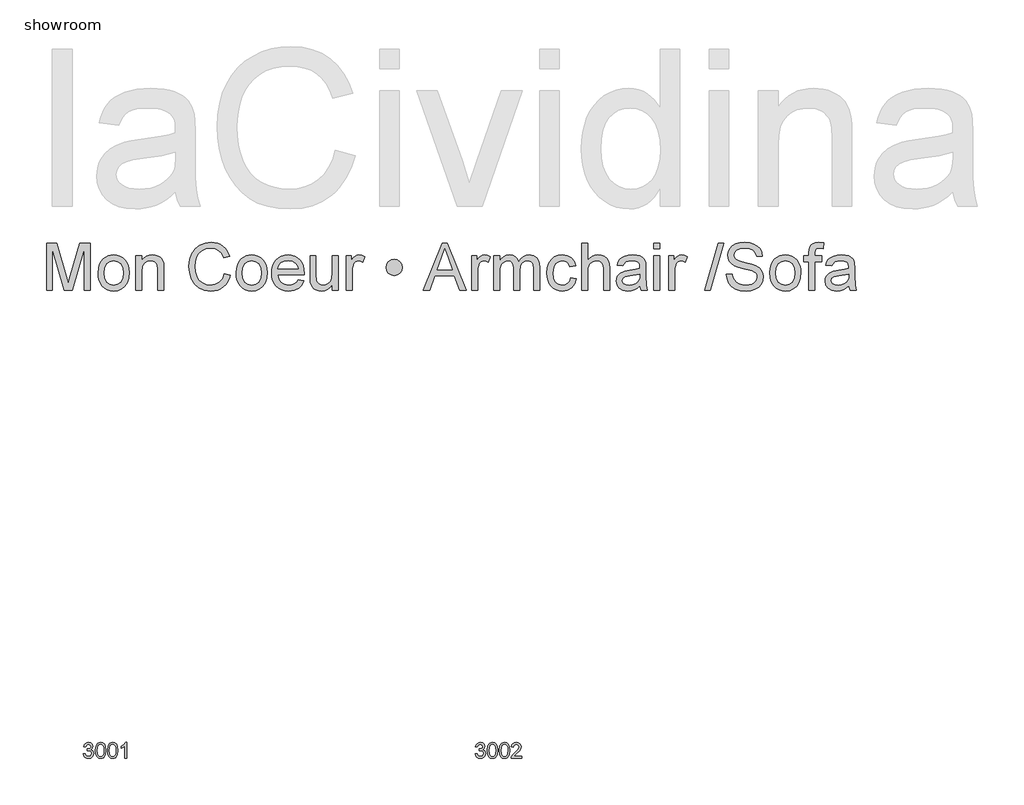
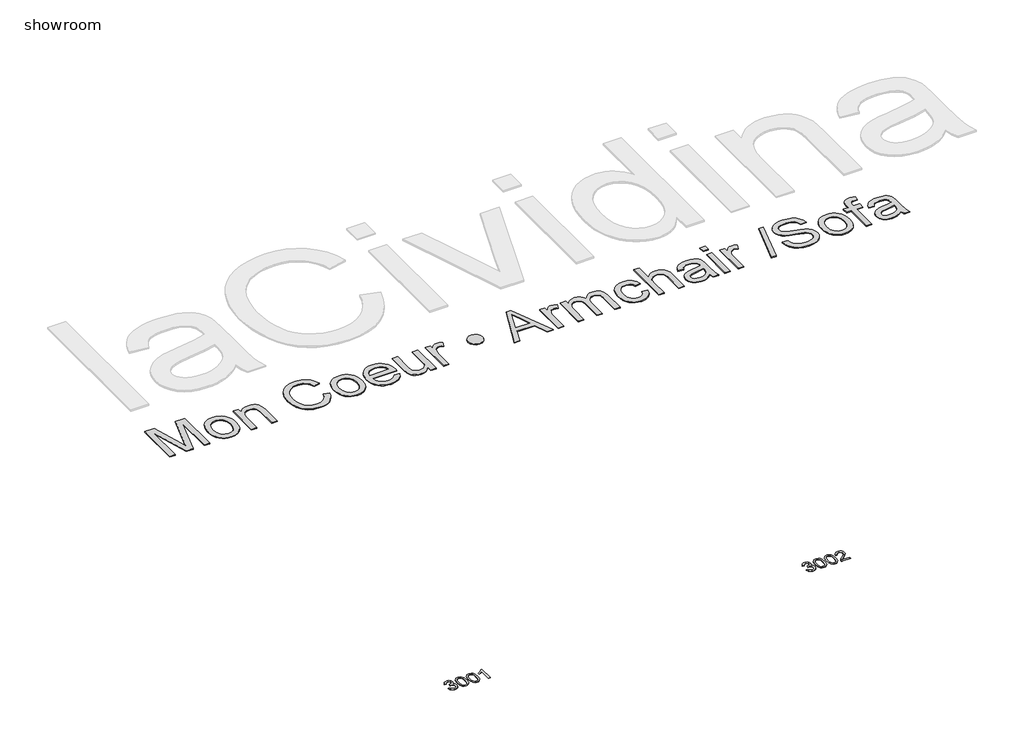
# One storey, part 1 of 2: 3 proxies.
"""IFC4 building model written with IfcOpenShell, lengths in millimetres."""

from ifc_helpers import new_model, si_unit, origin, origin_with_axes, place, context, project, spatial, polyline, outline, extrude, element, save

model = new_model("IFC4")

# Units and contexts
model_context = context("Model", 3, world=origin())
ifc_project = project(units=[si_unit("LENGTHUNIT", "METRE", prefix="MILLI")], contexts=[model_context])

# Site, building, storey
site = spatial("IfcSite", under=ifc_project)
building = spatial("IfcBuilding", under=site)
storey = spatial("IfcBuildingStorey", under=building, Name="showroom", Elevation=0.0)

# Proxies
placement = place(None, origin())
element("IfcBuildingElementProxy", 1, Name="100mm Arial", ObjectType="100mm Arial", at=placement, inside=storey, context=model_context, shape_type="SweptSolid", body=[
    extrude(outline(polyline([(-1755.1998563, 1201.7857881), (-1742.6428175, 1203.3554179), (-1735.7143732, 1190.1361915), (-1722.7526643, 1186.0894896), (-1714.1442256, 1187.4813098), (-1707.4978242, 1191.6567705), (-1701.8324415, 1205.4400825), (-1707.4487733, 1218.426317), (-1721.7225947, 1223.5644022), (-1730.5272371, 1222.1909761), (-1729.1292855, 1234.7480148), (-1727.1181973, 1234.600862), (-1712.8689013, 1238.2061056), (-1708.1232236, 1242.7801051), (-1706.541331, 1249.2916164), (-1711.1275932, 1259.1140656), (-1722.948868, 1263.0013521), (-1734.9172956, 1259.0772774), (-1741.0731876, 1247.3050536), (-1753.6302264, 1248.8746834), (-1749.9330124, 1260.1502666), (-1743.354056, 1268.5686329), (-1734.3532099, 1273.8109513), (-1723.3903264, 1275.5583908), (-1708.2458509, 1272.1125628), (-1697.6508495, 1262.6947837), (-1693.9842923, 1250.0273804), (-1697.4669085, 1238.4513602), (-1707.7676043, 1230.1372272), (-1694.0823941, 1221.5533139), (-1689.2754027, 1205.2193533), (-1691.6788984, 1192.9811456), (-1698.8893855, 1182.7540262), (-1709.7725612, 1175.8378447), (-1723.1941227, 1173.5324508), (-1735.3342285, 1175.5006195), (-1745.2179915, 1181.4051255), (-1752.0912534, 1190.4366285), (-1755.1998563, 1201.7857881)])), origin_with_axes(), (0.0, 0.0, 1.0), 2.0),
    extrude(outline(polyline([(-1678.2879938, 1224.5208954), (-1674.5969111, 1253.4241574), (-1663.6340277, 1270.0892118), (-1645.325767, 1275.5583908), (-1630.6595382, 1272.3210293), (-1620.5305206, 1262.9890893), (-1614.6444086, 1248.1266567), (-1612.3635403, 1224.5208954), (-1616.0178347, 1195.7402606), (-1626.94393, 1179.038418), (-1635.1752896, 1174.9089426), (-1645.325767, 1173.5324508), (-1658.3733151, 1175.9236838), (-1668.2816035, 1183.0973827), (-1675.7863962, 1200.0873995), (-1678.2879938, 1224.5208954)]), holes=[polyline([(-1665.730955, 1224.5454208), (-1664.259427, 1204.7932234), (-1659.8448431, 1193.3612904), (-1653.2720181, 1187.9074398), (-1645.325767, 1186.0894896), (-1637.3795159, 1187.9135712), (-1630.806691, 1193.3858158), (-1626.392107, 1204.8238802), (-1624.920579, 1224.5454208), (-1626.3430561, 1243.8530942), (-1630.6104872, 1255.373932), (-1637.1710495, 1261.094497), (-1645.4729198, 1263.0013521), (-1653.3333318, 1261.3213576), (-1659.6486394, 1256.2813743), (-1664.2103761, 1244.0431666), (-1665.730955, 1224.5454208)])]), origin_with_axes(), (0.0, 0.0, 1.0), 2.0),
    extrude(outline(polyline([(-1601.3761313, 1224.5208954), (-1597.6850487, 1253.4241574), (-1586.7221652, 1270.0892118), (-1568.4139046, 1275.5583908), (-1553.7476757, 1272.3210293), (-1543.6186581, 1262.9890893), (-1537.7325462, 1248.1266567), (-1535.4516778, 1224.5208954), (-1539.1059723, 1195.7402606), (-1550.0320675, 1179.038418), (-1558.2634272, 1174.9089426), (-1568.4139046, 1173.5324508), (-1581.4614527, 1175.9236838), (-1591.3697411, 1183.0973827), (-1598.8745338, 1200.0873995), (-1601.3761313, 1224.5208954)]), holes=[polyline([(-1588.8190926, 1224.5454208), (-1587.3475646, 1204.7932234), (-1582.9329806, 1193.3612904), (-1576.3601557, 1187.9074398), (-1568.4139046, 1186.0894896), (-1560.4676535, 1187.9135712), (-1553.8948285, 1193.3858158), (-1549.4802446, 1204.8238802), (-1548.0087166, 1224.5454208), (-1549.4311936, 1243.8530942), (-1553.6986248, 1255.373932), (-1560.259187, 1261.094497), (-1568.5610574, 1263.0013521), (-1576.4214693, 1261.3213576), (-1582.7367769, 1256.2813743), (-1587.2985137, 1244.0431666), (-1588.8190926, 1224.5454208)])]), origin_with_axes(), (0.0, 0.0, 1.0), 2.0),
    extrude(outline(polyline([(-1477.3753735, 1175.1020807), (-1489.9324123, 1175.1020807), (-1489.9324123, 1253.3873692), (-1501.8272634, 1244.9138206), (-1515.0464898, 1238.5739876), (-1515.0464898, 1250.4443133), (-1496.6401273, 1262.1920117), (-1485.4687774, 1275.5583908), (-1477.3753735, 1275.5583908), (-1477.3753735, 1175.1020807)])), origin_with_axes(), (0.0, 0.0, 1.0), 2.0),
])
element("IfcBuildingElementProxy", 2, Name="100mm Arial", ObjectType="100mm Arial", at=placement, inside=storey, context=model_context, shape_type="SweptSolid", body=[
    extrude(outline(polyline([(744.8001437, 1201.7857881), (757.3571825, 1203.3554179), (764.2856268, 1190.1361915), (777.2473357, 1186.0894896), (785.8557744, 1187.4813098), (792.5021758, 1191.6567705), (798.1675585, 1205.4400825), (792.5512267, 1218.426317), (778.2774053, 1223.5644022), (769.4727629, 1222.1909761), (770.8707145, 1234.7480148), (772.8818027, 1234.600862), (787.1310987, 1238.2061056), (791.8767764, 1242.7801051), (793.458669, 1249.2916164), (788.8724068, 1259.1140656), (777.051132, 1263.0013521), (765.0827044, 1259.0772774), (758.9268124, 1247.3050536), (746.3697736, 1248.8746834), (750.0669876, 1260.1502666), (756.645944, 1268.5686329), (765.6467901, 1273.8109513), (776.6096736, 1275.5583908), (791.7541491, 1272.1125628), (802.3491505, 1262.6947837), (806.0157077, 1250.0273804), (802.5330915, 1238.4513602), (792.2323957, 1230.1372272), (805.9176059, 1221.5533139), (810.7245973, 1205.2193533), (808.3211016, 1192.9811456), (801.1106145, 1182.7540262), (790.2274388, 1175.8378447), (776.8058773, 1173.5324508), (764.6657715, 1175.5006195), (754.7820085, 1181.4051255), (747.9087466, 1190.4366285), (744.8001437, 1201.7857881)])), origin_with_axes(), (0.0, 0.0, 1.0), 2.0),
    extrude(outline(polyline([(821.7120062, 1224.5208954), (825.4030889, 1253.4241574), (836.3659723, 1270.0892118), (854.674233, 1275.5583908), (869.3404618, 1272.3210293), (879.4694794, 1262.9890893), (885.3555914, 1248.1266567), (887.6364597, 1224.5208954), (883.9821653, 1195.7402606), (873.05607, 1179.038418), (864.8247104, 1174.9089426), (854.674233, 1173.5324508), (841.6266849, 1175.9236838), (831.7183965, 1183.0973827), (824.2136038, 1200.0873995), (821.7120062, 1224.5208954)]), holes=[polyline([(834.269045, 1224.5454208), (835.740573, 1204.7932234), (840.1551569, 1193.3612904), (846.7279819, 1187.9074398), (854.674233, 1186.0894896), (862.6204841, 1187.9135712), (869.193309, 1193.3858158), (873.607893, 1204.8238802), (875.079421, 1224.5454208), (873.6569439, 1243.8530942), (869.3895128, 1255.373932), (862.8289505, 1261.094497), (854.5270802, 1263.0013521), (846.6666682, 1261.3213576), (840.3513606, 1256.2813743), (835.7896239, 1244.0431666), (834.269045, 1224.5454208)])]), origin_with_axes(), (0.0, 0.0, 1.0), 2.0),
    extrude(outline(polyline([(898.6238687, 1224.5208954), (902.3149513, 1253.4241574), (913.2778348, 1270.0892118), (931.5860954, 1275.5583908), (946.2523243, 1272.3210293), (956.3813419, 1262.9890893), (962.2674538, 1248.1266567), (964.5483222, 1224.5208954), (960.8940277, 1195.7402606), (949.9679325, 1179.038418), (941.7365728, 1174.9089426), (931.5860954, 1173.5324508), (918.5385473, 1175.9236838), (908.6302589, 1183.0973827), (901.1254662, 1200.0873995), (898.6238687, 1224.5208954)]), holes=[polyline([(911.1809074, 1224.5454208), (912.6524354, 1204.7932234), (917.0670194, 1193.3612904), (923.6398443, 1187.9074398), (931.5860954, 1186.0894896), (939.5323465, 1187.9135712), (946.1051715, 1193.3858158), (950.5197554, 1204.8238802), (951.9912834, 1224.5454208), (950.5688064, 1243.8530942), (946.3013752, 1255.373932), (939.740813, 1261.094497), (931.4389426, 1263.0013521), (923.5785307, 1261.3213576), (917.2632231, 1256.2813743), (912.7014863, 1244.0431666), (911.1809074, 1224.5454208)])]), origin_with_axes(), (0.0, 0.0, 1.0), 2.0),
    extrude(outline(polyline([(1039.8905548, 1187.6591194), (1039.8905548, 1175.1020807), (973.9661013, 1175.1020807), (975.3150019, 1183.7595703), (982.942422, 1197.0891613), (998.6632459, 1211.6450255), (1020.3437581, 1232.5652483), (1025.7638862, 1246.7900188), (1020.6503265, 1258.3047252), (1007.29621, 1263.0013521), (993.3780079, 1258.4150898), (988.0927699, 1245.7354237), (975.5357311, 1247.3050536), (978.5799546, 1259.4512908), (985.1619767, 1268.3233782), (994.9384407, 1273.7496377), (1007.5659902, 1275.5583908), (1020.2855101, 1273.5473026), (1030.0435801, 1267.5140379), (1036.2515887, 1258.500929), (1038.320925, 1247.5503083), (1036.0891075, 1235.6431943), (1028.670154, 1223.3314102), (1010.6807244, 1206.1267956), (996.2352247, 1194.0480034), (990.569842, 1187.6591194), (1039.8905548, 1187.6591194)])), origin_with_axes(), (0.0, 0.0, 1.0), 2.0),
])
element("IfcBuildingElementProxy", 3, Name="300mm Arial", ObjectType="300mm Arial", at=placement, inside=storey, context=model_context, shape_type="SweptSolid", body=[
    extrude(outline(polyline([(-1990.3620976, 4160.1020807), (-1990.3620976, 4461.4710111), (-1925.5412901, 4461.4710111), (-1863.8842677, 4249.0559471), (-1851.4498563, 4204.6893785), (-1837.9853752, 4252.7347671), (-1777.3584224, 4461.4710111), (-1712.5376149, 4461.4710111), (-1712.5376149, 4160.1020807), (-1750.2087312, 4160.1020807), (-1750.2087312, 4423.7998948), (-1825.9188458, 4160.1020807), (-1876.9808667, 4160.1020807), (-1952.6909813, 4423.7998948), (-1952.6909813, 4160.1020807), (-1990.3620976, 4160.1020807)])), origin_with_axes(), (0.0, 0.0, 1.0), 5.0),
    extrude(outline(polyline([(-1660.73983, 4270.7609848), (-1658.7026834, 4299.4235908), (-1652.5912438, 4324.1222682), (-1642.405511, 4344.8570172), (-1628.1454852, 4361.6278376), (-1613.7888903, 4372.3469993), (-1597.9423734, 4380.0035433), (-1580.6059344, 4384.5974697), (-1561.7795733, 4386.1287785), (-1540.9965398, 4384.2640766), (-1522.2046676, 4378.6699711), (-1505.4039568, 4369.3464617), (-1490.5944072, 4356.2935487), (-1478.5071844, 4339.9526903), (-1469.8734538, 4320.765345), (-1464.6932155, 4298.7315128), (-1462.9664693, 4273.8511936), (-1466.0198899, 4235.7938012), (-1475.1801516, 4206.8230941), (-1490.1805399, 4185.1272534), (-1510.7543405, 4168.8944604), (-1535.1909021, 4158.7685084), (-1561.7795733, 4155.3931911), (-1582.8661094, 4157.2509952), (-1601.8327255, 4162.8244074), (-1618.6794216, 4172.1134278), (-1633.4061977, 4185.1180563), (-1645.3646618, 4201.6175638), (-1653.9064219, 4221.3912211), (-1659.0314779, 4244.4390281), (-1660.73983, 4270.7609848)]), holes=[polyline([(-1623.0687137, 4270.8345612), (-1618.709312, 4236.7410973), (-1605.6311071, 4212.4516886), (-1585.9494203, 4197.9111527), (-1561.7795733, 4193.0643074), (-1537.7200908, 4197.9387439), (-1518.0751922, 4212.5620532), (-1504.9969873, 4237.1733587), (-1500.6375857, 4272.0117836), (-1505.0245784, 4305.1119661), (-1518.1855568, 4329.0702811), (-1537.8580465, 4343.6108169), (-1561.7795733, 4348.4576622), (-1585.9494203, 4343.629211), (-1605.6311071, 4329.1438575), (-1618.709312, 4304.909631), (-1623.0687137, 4270.8345612)])]), origin_with_axes(), (0.0, 0.0, 1.0), 5.0),
    extrude(outline(polyline([(-1420.5864635, 4160.1020807), (-1420.5864635, 4381.419889), (-1382.9153472, 4381.419889), (-1382.9153472, 4350.5178014), (-1369.8279452, 4366.0976039), (-1354.110187, 4377.2260342), (-1335.7620725, 4383.9030924), (-1314.7836017, 4386.1287785), (-1296.214758, 4384.3353538), (-1279.2094128, 4378.9550796), (-1265.0275618, 4370.6593406), (-1254.9292011, 4360.1195214), (-1243.6352238, 4332.4180072), (-1241.6486611, 4295.9976897), (-1241.6486611, 4160.1020807), (-1279.3197774, 4160.1020807), (-1279.3197774, 4290.9209182), (-1283.6607849, 4324.2510269), (-1289.6664585, 4334.1746437), (-1299.0014641, 4341.8725745), (-1310.966826, 4346.8113903), (-1324.8635684, 4348.4576622), (-1346.927291, 4344.7604482), (-1365.735258, 4333.668806), (-1373.251547, 4324.6143104), (-1378.6203249, 4312.2396798), (-1382.9153472, 4277.5300135), (-1382.9153472, 4160.1020807), (-1420.5864635, 4160.1020807)])), origin_with_axes(), (0.0, 0.0, 1.0), 5.0),
    extrude(outline(polyline([(-855.5197189, 4267.2293177), (-817.8486026, 4257.517233), (-825.3028115, 4234.0900477), (-835.2310269, 4213.6197139), (-847.6332486, 4196.1062317), (-862.5094768, 4181.549601), (-879.5240191, 4170.1061717), (-898.3411832, 4161.9322936), (-918.960969, 4157.0279667), (-941.3833766, 4155.3931911), (-985.0785606, 4160.341204), (-1019.7790298, 4175.1852425), (-1046.376898, 4199.4102719), (-1065.7642792, 4232.5012573), (-1077.6008824, 4271.4047783), (-1081.5464168, 4313.0674143), (-1077.0858476, 4357.0109186), (-1063.70414, 4394.9579464), (-1042.1002698, 4425.7036841), (-1012.9732128, 4448.0433183), (-978.4290935, 4461.6457551), (-940.5740362, 4466.1799007), (-899.2700852, 4460.3121828), (-881.301349, 4452.9775356), (-865.121439, 4442.7090294), (-850.9970696, 4429.7779772), (-839.1949554, 4414.4556921), (-822.5574921, 4376.637423), (-860.2286085, 4367.6611024), (-873.2884193, 4395.1326903), (-891.130696, 4413.9774455), (-913.9761679, 4424.8759497), (-942.0455642, 4428.5087844), (-974.4007857, 4424.4804765), (-1000.9802598, 4412.395553), (-1021.1493902, 4393.5232066), (-1034.2735804, 4369.1326303), (-1041.4748704, 4341.5598748), (-1043.8753004, 4313.1409907), (-1041.033412, 4278.3393539), (-1032.5077468, 4248.2466067), (-1017.976408, 4224.0123803), (-997.1174989, 4206.7863059), (-972.1107202, 4196.494807), (-945.1357729, 4193.0643074), (-913.6910594, 4197.7364088), (-887.4886643, 4211.7527128), (-867.70581, 4234.9660667), (-855.5197189, 4267.2293177)])), origin_with_axes(), (0.0, 0.0, 1.0), 5.0),
    extrude(outline(polyline([(-780.1774863, 4270.7609848), (-778.1403398, 4299.4235908), (-772.0289001, 4324.1222682), (-761.8431674, 4344.8570172), (-747.5831415, 4361.6278376), (-733.2265467, 4372.3469993), (-717.3800297, 4380.0035433), (-700.0435907, 4384.5974697), (-681.2172296, 4386.1287785), (-660.4341961, 4384.2640766), (-641.642324, 4378.6699711), (-624.8416131, 4369.3464617), (-610.0320635, 4356.2935487), (-597.9448407, 4339.9526903), (-589.3111102, 4320.765345), (-584.1308718, 4298.7315128), (-582.4041257, 4273.8511936), (-585.4575463, 4235.7938012), (-594.6178079, 4206.8230941), (-609.6181963, 4185.1272534), (-630.1919969, 4168.8944604), (-654.6285584, 4158.7685084), (-681.2172296, 4155.3931911), (-702.3037657, 4157.2509952), (-721.2703818, 4162.8244074), (-738.1170779, 4172.1134278), (-752.8438541, 4185.1180563), (-764.8023182, 4201.6175638), (-773.3440782, 4221.3912211), (-778.4691343, 4244.4390281), (-780.1774863, 4270.7609848)]), holes=[polyline([(-742.50637, 4270.8345612), (-738.1469684, 4236.7410973), (-725.0687634, 4212.4516886), (-705.3870767, 4197.9111527), (-681.2172296, 4193.0643074), (-657.1577471, 4197.9387439), (-637.5128486, 4212.5620532), (-624.4346436, 4237.1733587), (-620.075242, 4272.0117836), (-624.4622348, 4305.1119661), (-637.6232132, 4329.0702811), (-657.2957029, 4343.6108169), (-681.2172296, 4348.4576622), (-705.3870767, 4343.629211), (-725.0687634, 4329.1438575), (-738.1469684, 4304.909631), (-742.50637, 4270.8345612)])]), origin_with_axes(), (0.0, 0.0, 1.0), 5.0),
    extrude(outline(polyline([(-385.0722235, 4226.0265342), (-348.1368712, 4221.3176447), (-361.4450023, 4193.4873717), (-382.6809905, 4172.6836449), (-411.3665891, 4159.7158046), (-447.0235515, 4155.3931911), (-470.3978537, 4157.257893), (-491.2245732, 4162.8519986), (-509.5037098, 4172.1755079), (-525.2352636, 4185.2284209), (-537.8858058, 4201.6474542), (-546.9219073, 4221.0693243), (-552.3435682, 4243.4940312), (-554.1507885, 4268.9215748), (-552.3251741, 4295.2113419), (-546.8483309, 4318.3833091), (-537.7202589, 4338.4374764), (-524.940958, 4355.3738437), (-509.250791, 4368.8291277), (-491.3901201, 4378.4400448), (-471.3589455, 4384.2065951), (-449.157267, 4386.1287785), (-427.6706593, 4384.2111936), (-408.2395921, 4378.4584389), (-390.8640656, 4368.8705144), (-375.5440798, 4355.4474201), (-363.0383912, 4338.547841), (-354.1057565, 4318.5304619), (-348.7461757, 4295.3952829), (-346.9596488, 4269.142304), (-347.180378, 4258.988761), (-516.4796722, 4258.988761), (-509.9589638, 4230.790606), (-494.8114226, 4210.0604556), (-472.9500351, 4197.3133445), (-446.2877875, 4193.0643074), (-426.2382187, 4195.0324761), (-409.3524352, 4200.9369821), (-395.6304367, 4211.1457075), (-385.0722235, 4226.0265342)]), holes=[polyline([(-516.4796722, 4296.6598773), (-384.6307651, 4296.6598773), (-389.7259307, 4316.5622932), (-399.7139269, 4330.7993264), (-421.676482, 4344.0430783), (-449.3044198, 4348.4576622), (-474.6974746, 4344.9351921), (-495.6943394, 4334.3677818), (-510.2900576, 4317.8958655), (-516.4796722, 4296.6598773)])]), origin_with_axes(), (0.0, 0.0, 1.0), 5.0),
    extrude(outline(polyline([(-168.0218463, 4160.1020807), (-168.0218463, 4198.141079), (-181.6518742, 4179.438878), (-197.5259823, 4166.0801631), (-215.6441706, 4158.0649341), (-236.006439, 4155.3931911), (-254.3545535, 4157.2693893), (-271.4334752, 4162.8979838), (-285.7624789, 4171.3592697), (-295.8608397, 4181.733542), (-307.0812405, 4209.4718444), (-309.2885325, 4244.4942104), (-309.2885325, 4381.419889), (-271.6174162, 4381.419889), (-271.6174162, 4262.2261225), (-269.3365478, 4223.8192422), (-263.845909, 4211.0077518), (-254.437327, 4201.2680759), (-241.7362011, 4195.1152496), (-226.3679308, 4193.0643074), (-210.1167436, 4195.1612348), (-194.9140202, 4201.4520169), (-182.3784412, 4211.3572396), (-174.1286874, 4224.2974888), (-169.5485566, 4242.0202039), (-168.0218463, 4266.2728245), (-168.0218463, 4381.419889), (-130.35073, 4381.419889), (-130.35073, 4160.1020807), (-168.0218463, 4160.1020807)])), origin_with_axes(), (0.0, 0.0, 1.0), 5.0),
    extrude(outline(polyline([(-78.5529451, 4160.1020807), (-78.5529451, 4381.419889), (-45.5907183, 4381.419889), (-45.5907183, 4348.6783914), (-33.4138243, 4367.6611024), (-22.1934234, 4378.844715), (-10.9362344, 4384.3077626), (1.3510243, 4386.1287785), (20.113006, 4383.2225107), (39.1692934, 4374.5037075), (26.5877291, 4340.7321403), (13.3439773, 4346.5262817), (0.1002255, 4348.4576622), (-11.1477665, 4346.5998581), (-21.2001421, 4341.0264459), (-29.3211371, 4332.1604898), (-34.7749877, 4320.4250542), (-39.3551185, 4299.382204), (-40.8818288, 4276.4263675), (-40.8818288, 4160.1020807), (-78.5529451, 4160.1020807)])), origin_with_axes(), (0.0, 0.0, 1.0), 5.0),
    extrude(outline(polyline([(175.72709, 4306.1512328), (179.5346686, 4326.0444516), (190.9574046, 4342.7554913), (207.6960353, 4354.0954538), (227.4512985, 4357.8754413), (247.3169262, 4354.0954538), (264.0923452, 4342.7554913), (275.5150812, 4326.0444516), (279.3226598, 4306.1512328), (275.5150812, 4286.285605), (264.0923452, 4269.510186), (247.3169262, 4258.0874501), (227.4512985, 4254.2798714), (207.6960353, 4258.0874501), (190.9574046, 4269.510186), (179.5346686, 4286.285605), (175.72709, 4306.1512328)])), origin_with_axes(), (0.0, 0.0, 1.0), 5.0),
    extrude(outline(polyline([(413.7467408, 4160.1020807), (534.0441533, 4461.4710111), (566.1234632, 4461.4710111), (686.4208757, 4160.1020807), (646.6160438, 4160.1020807), (612.1087126, 4254.2798714), (487.9853275, 4254.2798714), (453.5515727, 4160.1020807), (413.7467408, 4160.1020807)]), holes=[polyline([(501.8176905, 4291.9509877), (598.349926, 4291.9509877), (571.2002348, 4366.0424216), (550.0838083, 4423.7998948), (531.3218265, 4372.5171447), (501.8176905, 4291.9509877)])]), origin_with_axes(), (0.0, 0.0, 1.0), 5.0),
    extrude(outline(polyline([(721.9582764, 4160.1020807), (721.9582764, 4381.419889), (754.9205032, 4381.419889), (754.9205032, 4348.6783914), (767.0973972, 4367.6611024), (778.3177981, 4378.844715), (789.5749871, 4384.3077626), (801.8622458, 4386.1287785), (820.6242275, 4383.2225107), (839.6805149, 4374.5037075), (827.0989506, 4340.7321403), (813.8551988, 4346.5262817), (800.611447, 4348.4576622), (789.363455, 4346.5998581), (779.3110795, 4341.0264459), (771.1900844, 4332.1604898), (765.7362338, 4320.4250542), (761.156103, 4299.382204), (759.6293927, 4276.4263675), (759.6293927, 4160.1020807), (721.9582764, 4160.1020807)])), origin_with_axes(), (0.0, 0.0, 1.0), 5.0),
    extrude(outline(polyline([(863.2249626, 4160.1020807), (863.2249626, 4381.419889), (900.8960789, 4381.419889), (900.8960789, 4344.9995714), (912.2268443, 4361.7290052), (926.7949713, 4374.8348013), (944.1038192, 4383.3052842), (963.6567472, 4386.1287785), (984.6076269, 4383.2501019), (1001.4014399, 4374.6140721), (1013.946216, 4360.7909061), (1022.1499845, 4342.3508211), (1035.8811799, 4361.5036775), (1051.5437559, 4375.1842892), (1069.1377123, 4383.3926562), (1088.6630492, 4386.1287785), (1116.9807658, 4381.5762388), (1137.9224484, 4367.9186197), (1150.8626975, 4344.7880393), (1155.1761139, 4311.8166155), (1155.1761139, 4160.1020807), (1117.5049976, 4160.1020807), (1117.5049976, 4295.6298077), (1114.0101187, 4327.0837183), (1109.098894, 4335.7565363), (1101.354978, 4342.5715503), (1091.394573, 4346.9861342), (1079.8338813, 4348.4576622), (1059.4256276, 4344.6868718), (1042.7881644, 4333.3745004), (1031.7241134, 4313.747996), (1028.0360964, 4285.0348062), (1028.0360964, 4160.1020807), (990.3649801, 4160.1020807), (990.3649801, 4299.8236624), (988.1852793, 4321.12403), (981.6461768, 4336.3175564), (970.1406674, 4345.4226357), (953.0617458, 4348.4576622), (938.5488011, 4346.4343112), (925.1762905, 4340.3642583), (914.1398307, 4330.3946562), (906.635038, 4316.6726578), (902.3308186, 4297.6347646), (900.8960789, 4271.717478), (900.8960789, 4160.1020807), (863.2249626, 4160.1020807)])), origin_with_axes(), (0.0, 0.0, 1.0), 5.0),
    extrude(outline(polyline([(1352.9494745, 4240.1532028), (1390.6205908, 4235.4443133), (1380.1175599, 4201.9394606), (1360.3806908, 4176.6199823), (1333.2677878, 4160.6998889), (1300.6366548, 4155.3931911), (1279.508732, 4157.2440974), (1260.5651085, 4162.7968163), (1243.8057844, 4172.0513477), (1229.2307596, 4185.0076917), (1217.4332438, 4201.4221265), (1209.0064469, 4221.0509302), (1203.9503687, 4243.8941029), (1202.2650093, 4269.9516444), (1205.1436859, 4303.4748912), (1213.7797158, 4332.5283718), (1228.3110546, 4355.9900461), (1248.8756581, 4372.7378739), (1273.4777665, 4382.7810524), (1300.12162, 4386.1287785), (1331.9526097, 4381.5302536), (1357.4008467, 4367.7346787), (1375.6569907, 4345.477818), (1385.9117013, 4315.4954354), (1348.240585, 4310.7865459), (1341.4071769, 4327.221674), (1330.7661902, 4339.0030949), (1316.9062361, 4346.0940204), (1300.4159256, 4348.4576622), (1276.0713346, 4343.803955), (1256.7483328, 4329.8428332), (1244.1391774, 4305.820139), (1239.9361256, 4270.981714), (1244.0472069, 4235.6742395), (1256.3804508, 4211.5687718), (1275.3539647, 4197.6904235), (1299.385856, 4193.0643074), (1318.8927988, 4195.9521811), (1334.8864686, 4204.6158021), (1346.5207367, 4219.2758996), (1352.9494745, 4240.1532028)])), origin_with_axes(), (0.0, 0.0, 1.0), 5.0),
    extrude(outline(polyline([(1423.5828176, 4160.1020807), (1423.5828176, 4461.4710111), (1461.2539339, 4461.4710111), (1461.2539339, 4350.6649542), (1475.0908955, 4366.1803773), (1490.6293112, 4377.2628224), (1507.8691812, 4383.9122895), (1526.8105055, 4386.1287785), (1549.5640069, 4383.7099544), (1569.1169349, 4376.453482), (1584.5127964, 4364.9295785), (1594.7950982, 4349.708461), (1600.5892396, 4328.7943696), (1602.5206201, 4300.1915444), (1602.5206201, 4160.1020807), (1564.8495038, 4160.1020807), (1564.8495038, 4296.2919953), (1561.8512655, 4319.8732312), (1552.8565507, 4336.0232508), (1538.3620001, 4345.3490593), (1518.8642544, 4348.4576622), (1502.944161, 4346.3607348), (1487.998955, 4340.0699527), (1475.6197258, 4330.1923211), (1467.3975632, 4317.3348454), (1462.7898412, 4300.2467267), (1461.2539339, 4277.6771663), (1461.2539339, 4160.1020807), (1423.5828176, 4160.1020807)])), origin_with_axes(), (0.0, 0.0, 1.0), 5.0),
    extrude(outline(polyline([(1795.5850911, 4188.3554179), (1777.5864645, 4172.9227682), (1759.054409, 4162.8244074), (1739.5658603, 4157.2509952), (1718.6977541, 4155.3931911), (1687.2162524, 4159.8629574), (1663.9937015, 4173.2722561), (1649.6738948, 4193.6345245), (1644.9006259, 4218.9631999), (1646.7032477, 4234.5797906), (1652.111113, 4248.7616415), (1660.4528373, 4260.9017474), (1671.0570358, 4270.3931028), (1697.4341748, 4282.7539379), (1730.0285196, 4288.4193206), (1768.5457645, 4294.3790089), (1795.3643619, 4301.3687668), (1795.5850911, 4309.7564763), (1792.9915231, 4326.5686835), (1785.2108189, 4337.5683551), (1767.8100005, 4345.7353354), (1743.566577, 4348.4576622), (1721.1257753, 4346.6458434), (1705.4540023, 4341.2103869), (1694.7670304, 4331.1580114), (1687.2806317, 4315.4954354), (1649.6095154, 4320.204325), (1656.1486179, 4340.8057167), (1665.9066878, 4356.9925245), (1679.7942331, 4369.3717536), (1698.7217618, 4378.5504094), (1721.8707363, 4384.2341862), (1748.4226193, 4386.1287785), (1773.8892505, 4384.4549154), (1794.0767749, 4379.4333262), (1809.2978925, 4371.8825482), (1819.8653028, 4362.621119), (1826.8734548, 4351.1707919), (1831.4167975, 4337.0533204), (1833.2562074, 4304.0910936), (1833.2562074, 4257.2229274), (1835.1691938, 4191.7767205), (1842.6739865, 4160.1020807), (1805.0028702, 4160.1020807), (1795.5850911, 4188.3554179)]), holes=[polyline([(1795.5850911, 4263.6976505), (1734.8109855, 4252.1461559), (1702.4005818, 4246.0393147), (1687.7220901, 4236.1065009), (1682.5717422, 4221.6119503), (1685.3768424, 4210.4099435), (1693.7921431, 4201.2312877), (1707.6337031, 4195.1060525), (1726.7175816, 4193.0643074), (1746.9510914, 4195.3175847), (1764.8301563, 4202.0774163), (1779.3247069, 4212.0378213), (1789.4046736, 4223.8928186), (1793.8744399, 4236.1065009), (1795.3643619, 4253.0290727), (1795.5850911, 4263.6976505)])]), origin_with_axes(), (0.0, 0.0, 1.0), 5.0),
    extrude(outline(polyline([(1885.0539924, 4423.7998948), (1885.0539924, 4461.4710111), (1922.7251087, 4461.4710111), (1922.7251087, 4423.7998948), (1885.0539924, 4423.7998948)])), origin_with_axes(), (0.0, 0.0, 1.0), 5.0),
    extrude(outline(polyline([(1885.0539924, 4160.1020807), (1885.0539924, 4381.419889), (1922.7251087, 4381.419889), (1922.7251087, 4160.1020807), (1885.0539924, 4160.1020807)])), origin_with_axes(), (0.0, 0.0, 1.0), 5.0),
    extrude(outline(polyline([(1979.2317831, 4160.1020807), (1979.2317831, 4381.419889), (2012.1940099, 4381.419889), (2012.1940099, 4348.6783914), (2024.3709039, 4367.6611024), (2035.5913048, 4378.844715), (2046.8484938, 4384.3077626), (2059.1357525, 4386.1287785), (2077.8977342, 4383.2225107), (2096.9540216, 4374.5037075), (2084.3724573, 4340.7321403), (2071.1287055, 4346.5262817), (2057.8849537, 4348.4576622), (2046.6369617, 4346.5998581), (2036.5845862, 4341.0264459), (2028.4635911, 4332.1604898), (2023.0097405, 4320.4250542), (2018.4296097, 4299.382204), (2016.9028994, 4276.4263675), (2016.9028994, 4160.1020807), (1979.2317831, 4160.1020807)])), origin_with_axes(), (0.0, 0.0, 1.0), 5.0),
    extrude(outline(polyline([(2209.9673705, 4160.1020807), (2294.7273822, 4461.4710111), (2328.7196785, 4461.4710111), (2243.9596668, 4160.1020807), (2209.9673705, 4160.1020807)])), origin_with_axes(), (0.0, 0.0, 1.0), 5.0),
    extrude(outline(polyline([(2346.5251671, 4263.6976505), (2384.1962834, 4263.6976505), (2388.5188969, 4242.7927561), (2396.3363893, 4225.989746), (2408.5316774, 4212.6540237), (2425.9876781, 4202.1509927), (2447.3248338, 4195.3359788), (2471.1635871, 4193.0643074), (2492.1512549, 4194.7841558), (2510.5269606, 4199.9437007), (2525.4169843, 4208.110681), (2535.9476064, 4218.8528353), (2542.2107974, 4231.1860792), (2544.2985277, 4244.1263284), (2542.7350292, 4256.7354838), (2538.0445338, 4267.6339879), (2528.5163901, 4276.9322053), (2512.4399469, 4284.7405006), (2457.5887414, 4299.1246866), (2421.5822912, 4308.6436333), (2398.5436812, 4317.7027274), (2379.7908965, 4330.3762621), (2366.5011594, 4345.7353354), (2358.5824995, 4363.4488535), (2355.9429462, 4383.1857225), (2359.2078989, 4405.2494452), (2369.002757, 4425.8232458), (2385.0700031, 4443.2608524), (2407.1521199, 4455.915993), (2433.6580177, 4463.6139237), (2462.9966068, 4466.1799007), (2494.7816112, 4463.4943621), (2522.59349, 4455.4377464), (2545.4389619, 4442.1756005), (2562.3247455, 4423.8734712), (2573.0117174, 4401.6717928), (2577.2607545, 4376.7109994), (2539.5896382, 4376.7109994), (2532.6734567, 4399.1885893), (2518.2524825, 4415.4121853), (2495.7197102, 4425.2346346), (2464.4681348, 4428.5087844), (2432.4807953, 4425.2714228), (2410.5366343, 4415.5593381), (2397.8447054, 4401.2671226), (2393.6140625, 4384.2893685), (2396.6123007, 4369.813212), (2405.6070155, 4358.1697469), (2426.8705949, 4347.7586864), (2467.1168851, 4337.1268968), (2508.6507624, 4327.028536), (2533.7771027, 4318.2177622), (2555.2522141, 4304.5509461), (2570.2342084, 4287.6835566), (2579.0357851, 4267.7995348), (2581.969644, 4245.0828216), (2578.5943267, 4221.8602706), (2568.4683748, 4200.0172771), (2552.0056555, 4181.2185072), (2529.6200361, 4167.1286268), (2502.7002711, 4158.32705), (2472.6351151, 4155.3931911), (2435.7273539, 4158.5569763), (2405.3494981, 4168.0483318), (2381.1520599, 4183.9040458), (2362.7855513, 4206.1609065), (2350.9949333, 4233.2738095), (2346.5251671, 4263.6976505)])), origin_with_axes(), (0.0, 0.0, 1.0), 5.0),
    extrude(outline(polyline([(2624.3496499, 4270.7609848), (2626.3867964, 4299.4235908), (2632.4982361, 4324.1222682), (2642.6839688, 4344.8570172), (2656.9439946, 4361.6278376), (2671.3005895, 4372.3469993), (2687.1471064, 4380.0035433), (2704.4835455, 4384.5974697), (2723.3099066, 4386.1287785), (2744.09294, 4384.2640766), (2762.8848122, 4378.6699711), (2779.6855231, 4369.3464617), (2794.4950726, 4356.2935487), (2806.5822954, 4339.9526903), (2815.216026, 4320.765345), (2820.3962644, 4298.7315128), (2822.1230105, 4273.8511936), (2819.0695899, 4235.7938012), (2809.9093282, 4206.8230941), (2794.9089399, 4185.1272534), (2774.3351393, 4168.8944604), (2749.8985778, 4158.7685084), (2723.3099066, 4155.3931911), (2702.2233705, 4157.2509952), (2683.2567543, 4162.8244074), (2666.4100582, 4172.1134278), (2651.6832821, 4185.1180563), (2639.724818, 4201.6175638), (2631.1830579, 4221.3912211), (2626.0580019, 4244.4390281), (2624.3496499, 4270.7609848)]), holes=[polyline([(2662.0207662, 4270.8345612), (2666.3801678, 4236.7410973), (2679.4583727, 4212.4516886), (2699.1400595, 4197.9111527), (2723.3099066, 4193.0643074), (2747.369389, 4197.9387439), (2767.0142876, 4212.5620532), (2780.0924925, 4237.1733587), (2784.4518942, 4272.0117836), (2780.0649014, 4305.1119661), (2766.903923, 4329.0702811), (2747.2314333, 4343.6108169), (2723.3099066, 4348.4576622), (2699.1400595, 4343.629211), (2679.4583727, 4329.1438575), (2666.3801678, 4304.909631), (2662.0207662, 4270.8345612)])]), origin_with_axes(), (0.0, 0.0, 1.0), 5.0),
    extrude(outline(polyline([(2873.9207954, 4160.1020807), (2873.9207954, 4343.7487727), (2840.9585686, 4343.7487727), (2840.9585686, 4381.419889), (2873.9207954, 4381.419889), (2873.9207954, 4403.7135379), (2877.8939209, 4435.1306603), (2885.47229, 4447.6570422), (2897.1709375, 4457.571462), (2913.5416863, 4464.027791), (2935.1363594, 4466.1799007), (2969.4965377, 4462.0596223), (2963.9783078, 4426.7429508), (2942.2732701, 4428.5087844), (2927.9534634, 4426.9452859), (2918.5448814, 4422.2547904), (2913.3301541, 4413.2968639), (2911.5919117, 4398.9310719), (2911.5919117, 4381.419889), (2953.9719175, 4381.419889), (2953.9719175, 4343.7487727), (2911.5919117, 4343.7487727), (2911.5919117, 4160.1020807), (2873.9207954, 4160.1020807)])), origin_with_axes(), (0.0, 0.0, 1.0), 5.0),
    extrude(outline(polyline([(3128.2008305, 4188.3554179), (3110.2022038, 4172.9227682), (3091.6701483, 4162.8244074), (3072.1815996, 4157.2509952), (3051.3134935, 4155.3931911), (3019.8319917, 4159.8629574), (2996.6094408, 4173.2722561), (2982.2896341, 4193.6345245), (2977.5163652, 4218.9631999), (2979.318987, 4234.5797906), (2984.7268523, 4248.7616415), (2993.0685766, 4260.9017474), (3003.6727751, 4270.3931028), (3030.0499141, 4282.7539379), (3062.6442589, 4288.4193206), (3101.1615038, 4294.3790089), (3127.9801013, 4301.3687668), (3128.2008305, 4309.7564763), (3125.6072624, 4326.5686835), (3117.8265582, 4337.5683551), (3100.4257398, 4345.7353354), (3076.1823163, 4348.4576622), (3053.7415146, 4346.6458434), (3038.0697416, 4341.2103869), (3027.3827697, 4331.1580114), (3019.8963711, 4315.4954354), (2982.2252548, 4320.204325), (2988.7643572, 4340.8057167), (2998.5224272, 4356.9925245), (3012.4099725, 4369.3717536), (3031.3375011, 4378.5504094), (3054.4864757, 4384.2341862), (3081.0383587, 4386.1287785), (3106.5049898, 4384.4549154), (3126.6925143, 4379.4333262), (3141.9136318, 4371.8825482), (3152.4810421, 4362.621119), (3159.4891941, 4351.1707919), (3164.0325368, 4337.0533204), (3165.8719468, 4304.0910936), (3165.8719468, 4257.2229274), (3167.7849331, 4191.7767205), (3175.2897258, 4160.1020807), (3137.6186095, 4160.1020807), (3128.2008305, 4188.3554179)]), holes=[polyline([(3128.2008305, 4263.6976505), (3067.4267249, 4252.1461559), (3035.0163211, 4246.0393147), (3020.3378295, 4236.1065009), (3015.1874815, 4221.6119503), (3017.9925818, 4210.4099435), (3026.4078824, 4201.2312877), (3040.2494425, 4195.1060525), (3059.333321, 4193.0643074), (3079.5668307, 4195.3175847), (3097.4458957, 4202.0774163), (3111.9404463, 4212.0378213), (3122.0204129, 4223.8928186), (3126.4901792, 4236.1065009), (3127.9801013, 4253.0290727), (3128.2008305, 4263.6976505)])]), origin_with_axes(), (0.0, 0.0, 1.0), 5.0),
])

save(model, "model.ifc")
